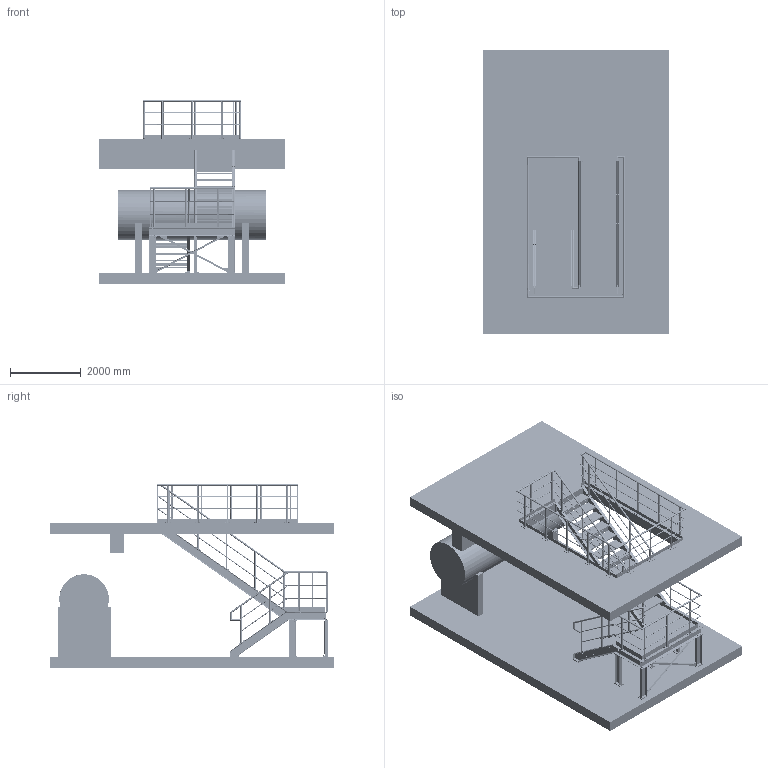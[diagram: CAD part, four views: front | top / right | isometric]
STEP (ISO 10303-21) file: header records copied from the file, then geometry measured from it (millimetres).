
FILE_DESCRIPTION(('TFLEX Exchange Step'),'2;1');
FILE_NAME('as_gray_1.stp', '2026-11-12T10:21:41+01:00',('User'),('Unknown organisation'),'TFLEX Exchange 2021.2','T-FLEX CAD','Unknown authorisation');
FILE_SCHEMA( ('AUTOMOTIVE_DESIGN { 1 0 10303 214 1 1 1 1 }') );
Length unit declared in the file: millimetre
Products named in the file (728): Treppe und Bruestungsgelaender Turbinenraum EnBW; Ohne Position - Blech t=300 mm - C25/30 - 5266 mm - 31593.34 kg/St - 2x; Ohne Position - R40x55 - C25/30 - 5266 mm - 2896.06 kg; Ohne Position - D140 - C25/30 - 4166 mm - 16005.20 kg; Ohne Position - Blech t=200 mm - C25/30 - 1500 mm - 834.37 kg/St - 2x; Ohne Position - U240 - S235JR - 153 mm - 3.01 kg/St - 11x; Ohne Position - Blech t=40 mm - S235JR - 994 mm - 9.10 kg/St - 20x; Ohne Position - Blech t=3 mm - S235JR - 70 mm - 0.49 kg/St - 36x; Ohne Positionsnummer; Ohne Position - L 40x4 - S235JR - 1035 mm - 2.47 kg/St - 3x; Ohne Position - RR 48.3x4 - S235JR - 1062 mm - 4.39 kg/St - 63x; Ohne Position - Blech t=15 mm - S235JR - 70 mm - 1.65 kg/St - 35x; Ohne Position - RR 26.9x2.6 - S235JR - 951 mm - 1.42 kg/St - 104x; Ohne Position - Blech t=2 mm - S235JR - 230 mm - 0.56 kg/St - 7x; Ohne Position - Blech t=10 mm - S235JR - 230 mm - 2.80 kg/St - 7x; Ohne Position - Blech t=5 mm - S235JR - 230 mm - 1.40 kg/St - 7x; Ohne Position - Blech t=8 mm - S235JR - 1053 mm - 9.21 kg/St - 4x; Ohne Position - U100 - S235JR - 980 mm - 10.37 kg/St - 9x; Ohne Position - Blech t=10 mm - S235JR - 46 mm - 0.32 kg/St - 34x; Ohne Position - Blech t=15 mm - S235JR - 155 mm - 4.31 kg/St - 7x; Ohne Position - RR 38x2.6 - S235JR - 80 mm - 0.18 kg/St - 8x; Ohne Position - RR 20x2 - S235JR - 80 mm - 0.07 kg/St - 16x; Ohne Position - U200 - S235JR - 1003 mm - 25.42 kg/St - 5x; Ohne Position - Blech t=20 mm - S235JR - 230 mm - 5.60 kg/St - 7x; Ohne Position - L 50x5 - S235JR - 1260 mm - 4.70 kg/St - 6x; Ohne Position - Sonderteil - S235JR - 35 mm - 60x; Ohne Position - FL 100x8 - S235JR - 2650 mm - 16.64 kg/St - 11x
Assembly tree (727 placements, depth 2):
  Treppe und Bruestungsgelaender Turbinenraum EnBW
    Ohne Position - Blech t=300 mm - C25/30 - 5266 mm - 31593.34 kg/St - 2x
    Ohne Position - Blech t=300 mm - C25/30 - 5266 mm - 31593.34 kg/St - 2x
    Ohne Position - R40x55 - C25/30 - 5266 mm - 2896.06 kg
    Ohne Position - D140 - C25/30 - 4166 mm - 16005.20 kg
    Ohne Position - Blech t=200 mm - C25/30 - 1500 mm - 834.37 kg/St - 2x
    Ohne Position - Blech t=200 mm - C25/30 - 1500 mm - 834.37 kg/St - 2x
    Ohne Position - U240 - S235JR - 153 mm - 3.01 kg/St - 11x
    Ohne Position - U240 - S235JR - 153 mm - 3.01 kg/St - 11x
    Ohne Position - U240 - S235JR - 153 mm - 3.01 kg/St - 11x
    Ohne Position - U240 - S235JR - 153 mm - 3.01 kg/St - 11x
    Ohne Position - U240 - S235JR - 153 mm - 3.01 kg/St - 11x
    Ohne Position - U240 - S235JR - 153 mm - 3.01 kg/St - 11x
    Ohne Position - U240 - S235JR - 153 mm - 3.01 kg/St - 11x
    Ohne Position - U240 - S235JR - 153 mm - 3.01 kg/St - 11x
    Ohne Position - U240 - S235JR - 153 mm - 3.01 kg/St - 11x
    Ohne Position - U240 - S235JR - 153 mm - 3.01 kg/St - 11x
    Ohne Position - U240 - S235JR - 153 mm - 3.01 kg/St - 11x
    Ohne Position - Blech t=40 mm - S235JR - 994 mm - 9.10 kg/St - 20x
    Ohne Position - Blech t=40 mm - S235JR - 994 mm - 9.10 kg/St - 20x
    Ohne Position - Blech t=40 mm - S235JR - 994 mm - 9.10 kg/St - 20x
    Ohne Position - Blech t=40 mm - S235JR - 994 mm - 9.10 kg/St - 20x
    Ohne Position - Blech t=40 mm - S235JR - 994 mm - 9.10 kg/St - 20x
    Ohne Position - Blech t=40 mm - S235JR - 994 mm - 9.10 kg/St - 20x
    Ohne Position - Blech t=40 mm - S235JR - 994 mm - 9.10 kg/St - 20x
    Ohne Position - Blech t=40 mm - S235JR - 994 mm - 9.10 kg/St - 20x
    Ohne Position - Blech t=40 mm - S235JR - 994 mm - 9.10 kg/St - 20x
    Ohne Position - Blech t=40 mm - S235JR - 994 mm - 9.10 kg/St - 20x
    Ohne Position - Blech t=40 mm - S235JR - 994 mm - 9.10 kg/St - 20x
    Ohne Position - Blech t=40 mm - S235JR - 994 mm - 9.10 kg/St - 20x
    Ohne Position - Blech t=40 mm - S235JR - 994 mm - 9.10 kg/St - 20x
    Ohne Position - Blech t=40 mm - S235JR - 994 mm - 9.10 kg/St - 20x
    Ohne Position - Blech t=40 mm - S235JR - 994 mm - 9.10 kg/St - 20x
    Ohne Position - Blech t=40 mm - S235JR - 994 mm - 9.10 kg/St - 20x
    Ohne Position - Blech t=40 mm - S235JR - 994 mm - 9.10 kg/St - 20x
    Ohne Position - Blech t=40 mm - S235JR - 994 mm - 9.10 kg/St - 20x
    Ohne Position - Blech t=40 mm - S235JR - 994 mm - 9.10 kg/St - 20x
    Ohne Position - Blech t=40 mm - S235JR - 994 mm - 9.10 kg/St - 20x
    Ohne Position - Blech t=3 mm - S235JR - 70 mm - 0.49 kg/St - 36x
    Ohne Position - Blech t=3 mm - S235JR - 70 mm - 0.49 kg/St - 36x
    Ohne Position - Blech t=3 mm - S235JR - 70 mm - 0.49 kg/St - 36x
    Ohne Position - Blech t=3 mm - S235JR - 70 mm - 0.49 kg/St - 36x
    Ohne Position - Blech t=3 mm - S235JR - 70 mm - 0.49 kg/St - 36x
    Ohne Position - Blech t=3 mm - S235JR - 70 mm - 0.49 kg/St - 36x
    Ohne Position - Blech t=3 mm - S235JR - 70 mm - 0.49 kg/St - 36x
    Ohne Position - Blech t=3 mm - S235JR - 70 mm - 0.49 kg/St - 36x
    Ohne Position - Blech t=3 mm - S235JR - 70 mm - 0.49 kg/St - 36x
    Ohne Position - Blech t=3 mm - S235JR - 70 mm - 0.49 kg/St - 36x
    Ohne Position - Blech t=3 mm - S235JR - 70 mm - 0.49 kg/St - 36x
    Ohne Position - Blech t=3 mm - S235JR - 70 mm - 0.49 kg/St - 36x
    Ohne Position - Blech t=3 mm - S235JR - 70 mm - 0.49 kg/St - 36x
    Ohne Position - Blech t=3 mm - S235JR - 70 mm - 0.49 kg/St - 36x
    Ohne Position - Blech t=3 mm - S235JR - 70 mm - 0.49 kg/St - 36x
    Ohne Position - Blech t=3 mm - S235JR - 70 mm - 0.49 kg/St - 36x
    Ohne Position - Blech t=3 mm - S235JR - 70 mm - 0.49 kg/St - 36x
    Ohne Position - Blech t=3 mm - S235JR - 70 mm - 0.49 kg/St - 36x
    Ohne Position - Blech t=3 mm - S235JR - 70 mm - 0.49 kg/St - 36x
    Ohne Position - Blech t=3 mm - S235JR - 70 mm - 0.49 kg/St - 36x
    Ohne Position - Blech t=3 mm - S235JR - 70 mm - 0.49 kg/St - 36x
    Ohne Position - Blech t=3 mm - S235JR - 70 mm - 0.49 kg/St - 36x
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Bounding box: 5265.56 x 8000 x 5193 mm (x, y, z)
Volume: 31213697628 mm3; surface area: 291881842 mm2
Topology: 727 solids, 727 shells, 9997 faces, 24027 edges, 16414 vertices
Faces by surface type: plane 6961, cylinder 2748, cone 216, torus 72
Full cylindrical faces by diameter (mm): 3.15 x24, 4.2 x24, 5.002 x24, 8 x24, 10 x12, 12 x338, 12.002 x12, 13 x6, 13.002 x36, 14.002 x226, 16 x132, 16.002 x6, 18.002 x48, 19.002 x18, 20 x48, 21.7 x104, 22.002 x20, 24 x300, 26.9 x104, 30 x66, 32.8 x8, 35 x6, 37 x10, 38 x8, 40.3 x63, 48.3 x63, 1400 x1
Entity records: 933602 total; most frequent: CARTESIAN_POINT 698996, ORIENTED_EDGE 46162, DIRECTION 41289, EDGE_CURVE 23081, VERTEX_POINT 16414, VECTOR 14413, LINE 14413, AXIS2_PLACEMENT_3D 13438
